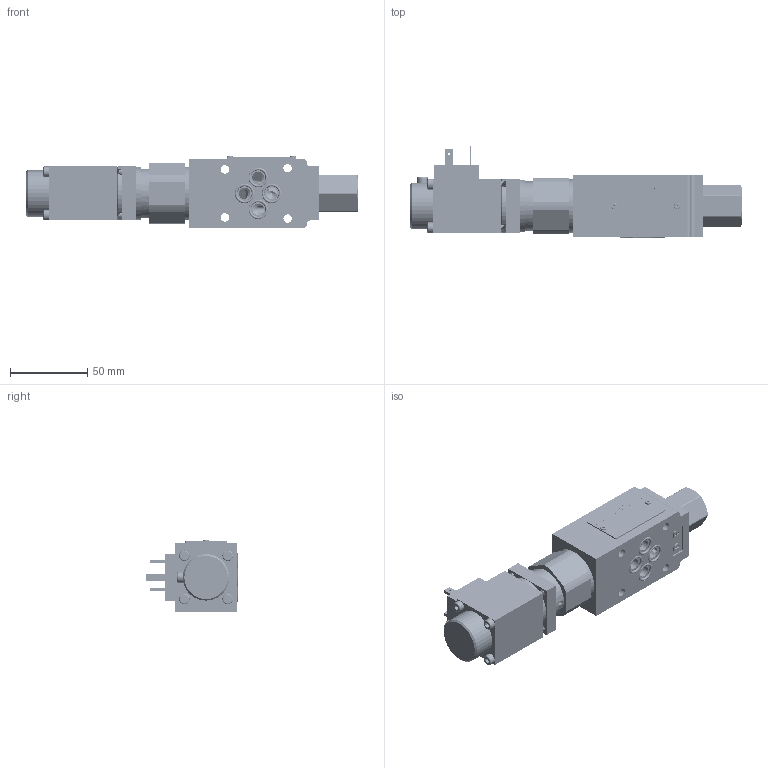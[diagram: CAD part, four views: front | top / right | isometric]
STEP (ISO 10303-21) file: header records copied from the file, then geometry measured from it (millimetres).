
FILE_DESCRIPTION(/* description */ (''),/* implementation_level */ '2;1');
FILE_NAME(/* name */ 'ZDRE6VP.stp',/* time_stamp */ '2024-12-07T08:11:31+08:00',/* author */ (''),/* organization */ (''),/* preprocessor_version */ 'ST-DEVELOPER v16.7',/* originating_system */ 'SIEMENS PLM Software NX 12.0',/* authorisation */ '');
FILE_SCHEMA (('AUTOMOTIVE_DESIGN { 1 0 10303 214 3 1 1 1 }'));
Products named in the file (1): ZDRE6VP-1XJ三维
Bounding box: 214.52 x 58.88 x 46.8 mm (x, y, z)
Volume: 140165.7 mm3; surface area: 83245.1 mm2
Topology: 40 solids, 45 shells, 925 faces, 2295 edges, 1477 vertices
Faces by surface type: cylinder 338, plane 287, extrusion 137, cone 63, bspline 63, torus 26, sphere 10, revolution 1
Full cylindrical faces by diameter (mm): 0.6 x1, 1.5 x2, 1.664 x2, 1.8 x4, 2 x1, 2.5 x14, 3.464 x1, 4 x115, 4.5 x4, 5.4 x4, 6 x1, 6.78 x5, 7 x2, 7.5 x9, 9 x1, 10 x1, 10.8 x1, 11.5 x1, 12 x1, 12.2 x4, 13 x1, 14 x1, 14.2 x1, 14.8 x2, 17 x1, 18 x2, 19.6 x1, 20 x3, 20.8 x1, 21 x7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
Entity records: 100867 total; most frequent: CARTESIAN_POINT 84005, ORIENTED_EDGE 3286, DIRECTION 2807, EDGE_CURVE 1643, VERTEX_POINT 1154, EDGE_LOOP 1072, AXIS2_PLACEMENT_3D 1046, ADVANCED_FACE 795
